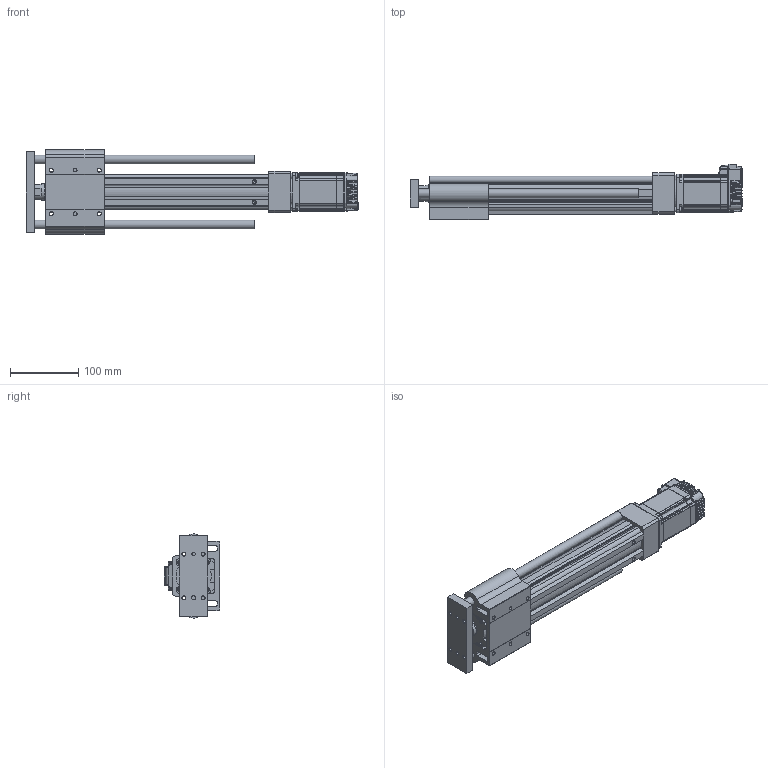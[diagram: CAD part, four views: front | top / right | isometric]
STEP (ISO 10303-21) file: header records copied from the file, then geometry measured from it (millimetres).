
FILE_DESCRIPTION (( 'STEP AP214' ), '1' );
FILE_NAME ('LEYG3(+)-32LDNM1□-200-23L.STEP', '2023-04-14T06:47:17', ( '' ), ( '' ), 'SwSTEP 2.0', 'SolidWorks 2019', '' );
FILE_SCHEMA (( 'AUTOMOTIVE_DESIGN' ));
Length unit declared in the file: millimetre
Products named in the file (6): LEYG3(+)-32LDNM1□-200-23L; LEY3(+)-32DNM1_MOTOR Flange; LEYG3(+)-32LNM1?_ROD_200; LEYG3(+)-32LNM1□_ATTACH_200; LEYG3(+)-32NM1?_BODY_200; CM3(+)-23L50A_2-M4_01
Assembly tree (5 placements, depth 2):
  LEYG3(+)-32LDNM1□-200-23L
    LEYG3(+)-32NM1?_BODY_200
    LEYG3(+)-32LNM1?_ROD_200
    LEYG3(+)-32LNM1□_ATTACH_200
    LEY3(+)-32DNM1_MOTOR Flange
    CM3(+)-23L50A_2-M4_01
Bounding box: 484.8 x 81.05 x 122.98 mm (x, y, z)
Volume: 1512579.4 mm3; surface area: 288585 mm2
Topology: 5 solids, 14 shells, 1518 faces, 3918 edges, 2430 vertices
Faces by surface type: plane 707, cylinder 466, bspline 133, cone 107, torus 58, sphere 47
Full cylindrical faces by diameter (mm): 2.5 x4, 3 x2, 3.2 x4, 4.2 x1, 4.5 x7, 4.9 x10, 5 x2, 6.2 x4, 6.35 x1, 7 x2, 8 x2, 13 x2, 24.5 x1, 25 x2, 32 x2, 38.1 x1
Entity records: 51618 total; most frequent: CARTESIAN_POINT 13066, ORIENTED_EDGE 7520, DIRECTION 7003, EDGE_CURVE 3760, VERTEX_POINT 2406, AXIS2_PLACEMENT_3D 2389, VECTOR 2225, LINE 2225
